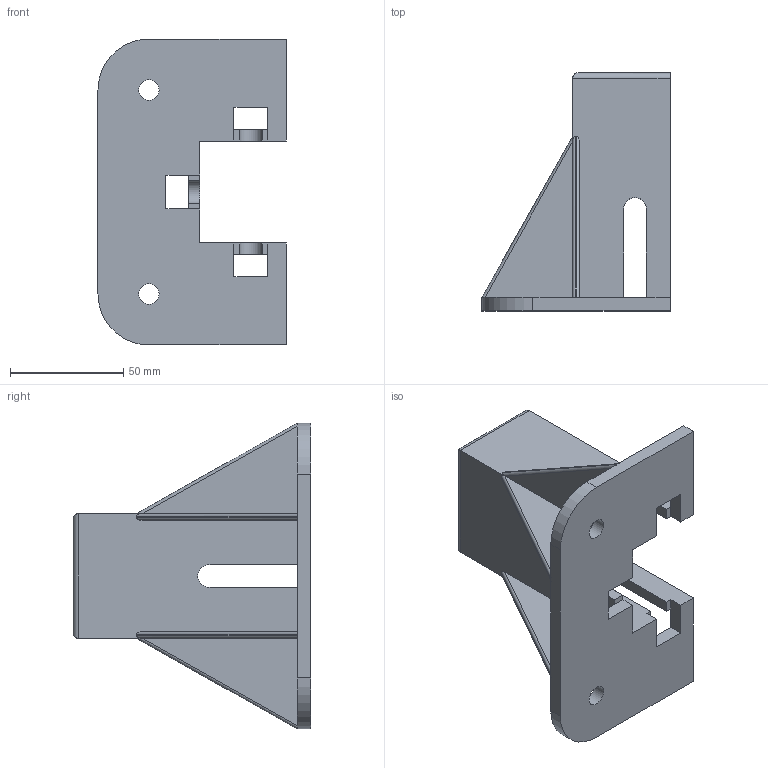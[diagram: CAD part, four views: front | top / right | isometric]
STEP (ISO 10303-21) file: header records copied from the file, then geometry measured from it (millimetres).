
FILE_DESCRIPTION(/* description */ ('STEP AP203'),/* implementation_level */ '2;1');
FILE_NAME(/* name */ 'C:\Users\Stefan.Nesic\Desktop\01010STEP\000Verifica\CORRETTI\PF4590.stp',/* time_stamp */ '2022-07-12T11:50:04+02:00',/* author */ (''),/* organization */ (''),/* preprocessor_version */ 'ST-DEVELOPER v18.1',/* originating_system */ 'Autodesk Inventor 2021',/* authorisation */ '');
FILE_SCHEMA (('AUTOMOTIVE_DESIGN { 1 0 10303 214 3 1 1 }'));
Length unit declared in the file: millimetre
Products named in the file (1): PF4590
Bounding box: 83 x 105 x 135 mm (x, y, z)
Volume: 125912.8 mm3; surface area: 57364.7 mm2
Topology: 1 solids, 1 shells, 69 faces, 197 edges, 124 vertices
Faces by surface type: plane 51, cylinder 18
Full cylindrical faces by diameter (mm): 9 x2
Entity records: 2270 total; most frequent: ORIENTED_EDGE 394, CARTESIAN_POINT 391, DIRECTION 371, EDGE_CURVE 197, LINE 163, VECTOR 163, VERTEX_POINT 124, AXIS2_PLACEMENT_3D 104
